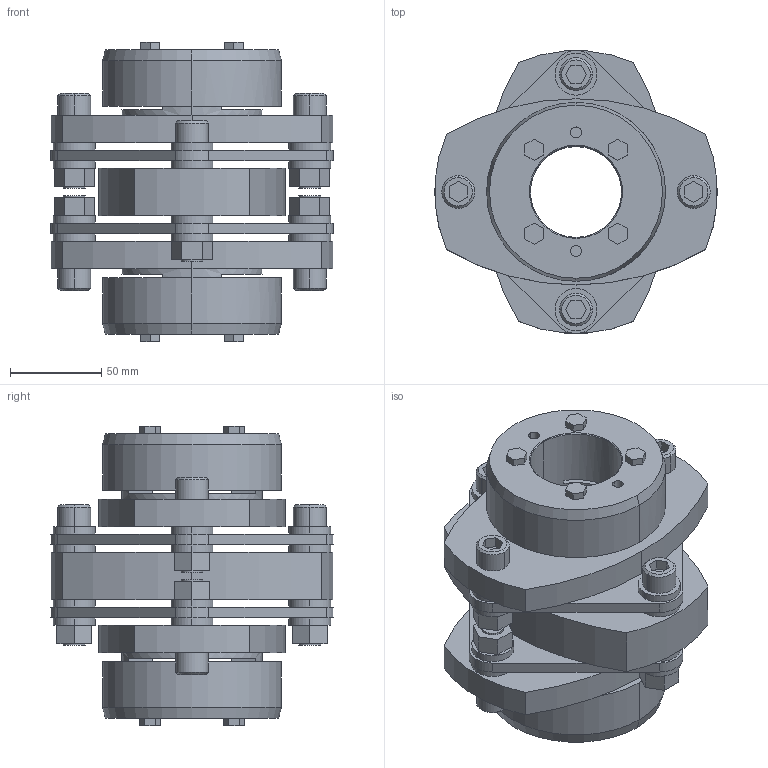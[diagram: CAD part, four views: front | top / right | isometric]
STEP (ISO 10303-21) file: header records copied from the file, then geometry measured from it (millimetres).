
FILE_DESCRIPTION((''),'2;1');
FILE_NAME('LCD-155T7-50×50.stp','2011-09-08T14:56:01',(''),(''),'AutoCAD STEP 2000i','AutoCAD 2000i',', , ');
FILE_SCHEMA(('CONFIG_CONTROL_DESIGN'));
Length unit declared in the file: millimetre
Products named in the file (7): LCD-155T7-50×50; 忣兜1; LC155T7-T050-1; LC155T7-T050; LC155T7-T045-1; LC155T7-T045; LCD155-ITA
Assembly tree (6 placements, depth 2):
  LCD-155T7-50×50
    忣兜1
    LC155T7-T050-1
    LC155T7-T050
    LC155T7-T045-1
    LC155T7-T045
    LCD155-ITA
Bounding box: 155 x 154.9 x 164 mm (x, y, z)
Volume: 1158947 mm3; surface area: 208336.1 mm2
Topology: 1 solids, 1 shells, 334 faces, 818 edges, 538 vertices
Faces by surface type: plane 190, cylinder 120, cone 24
Entity records: 10099 total; most frequent: DIRECTION 1782, CARTESIAN_POINT 1697, ORIENTED_EDGE 1636, EDGE_CURVE 818, AXIS2_PLACEMENT_3D 623, VERTEX_POINT 538, VECTOR 536, LINE 536
